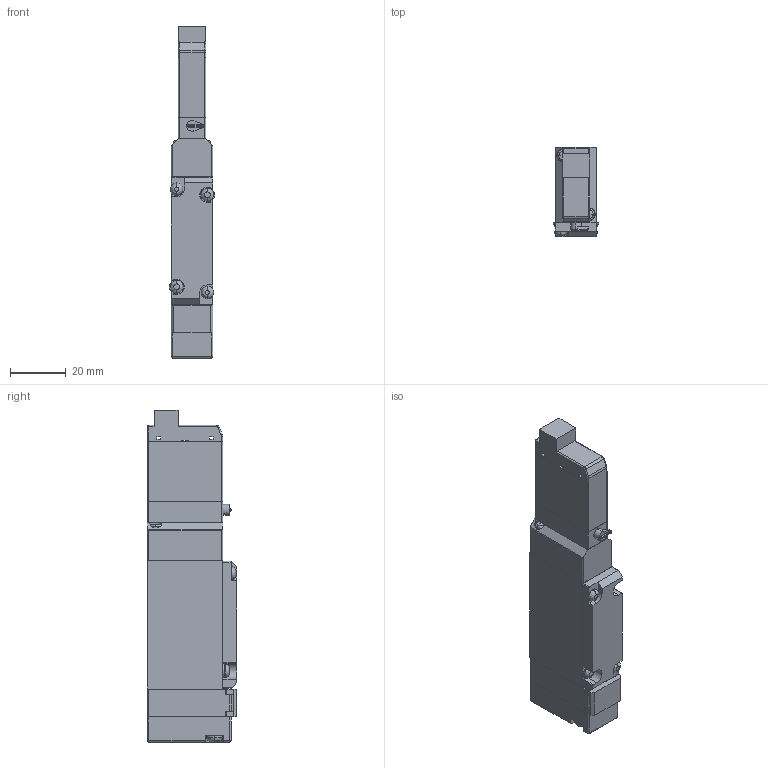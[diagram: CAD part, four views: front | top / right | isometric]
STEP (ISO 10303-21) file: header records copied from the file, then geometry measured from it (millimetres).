
FILE_DESCRIPTION( (''), '2;1');
FILE_NAME ('CVICAD02.3360.F15T1-R-A1-PN_21602.stp','2021-07-12T19:13:23',(''),(''),'spGate 12.6.6','','');
FILE_SCHEMA (('AUTOMOTIVE_DESIGN'));
Length unit declared in the file: millimetre
Products named in the file (8): Assembly; CVICAD02-prt0; CVICAD02-prt1; CVICAD02-prt2; CVICAD02-prt3; CVICAD02-prt4; CVICAD02-prt5; CVICAD02-prt6
Assembly tree (7 placements, depth 2):
  Assembly
    CVICAD02-prt0
    CVICAD02-prt1
    CVICAD02-prt2
    CVICAD02-prt3
    CVICAD02-prt4
    CVICAD02-prt5
    CVICAD02-prt6
Bounding box: 16.2 x 32 x 119 mm (x, y, z)
Volume: 44903.6 mm3; surface area: 17341.9 mm2
Topology: 7 solids, 7 shells, 353 faces, 916 edges, 581 vertices
Faces by surface type: plane 195, cylinder 125, bspline 24, sphere 9
Entity records: 18456 total; most frequent: CARTESIAN_POINT 2549, ORIENTED_EDGE 1806, DIRECTION 1721, COLOUR_RGB 1263, PRESENTATION_STYLE_ASSIGNMENT 1263, STYLED_ITEM 1263, EDGE_CURVE 903, DRAUGHTING_PRE_DEFINED_CURVE_FONT 903
